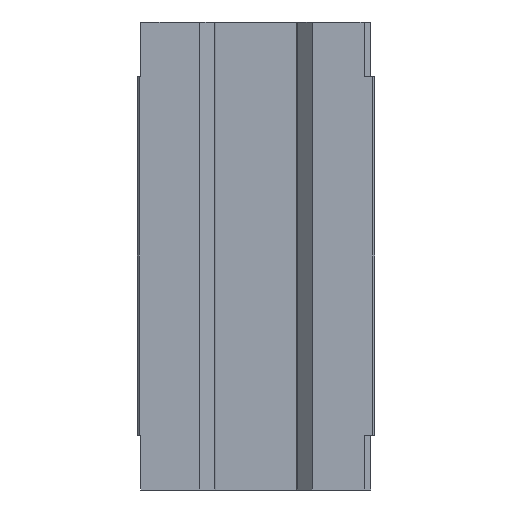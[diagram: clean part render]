
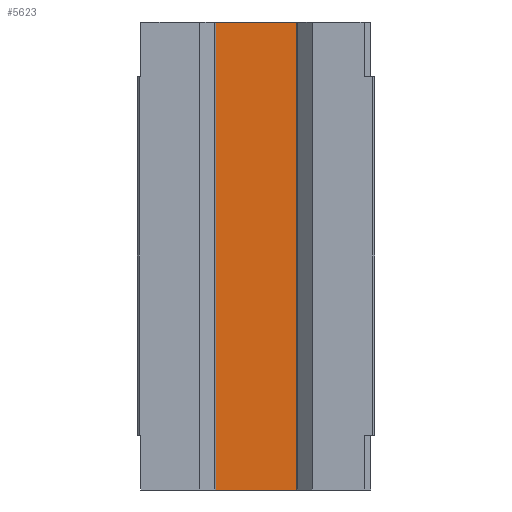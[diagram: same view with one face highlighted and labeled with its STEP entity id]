
A CAD part, front view. The second image highlights one B-rep face of the part: STEP entity #5623.
In plain terms, the highlighted planar face has unit normal (0, -1, 0).
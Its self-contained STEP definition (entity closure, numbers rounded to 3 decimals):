
#71 = VECTOR ( 'NONE', #1399, 1000. ) ;
#86 = LINE ( 'NONE', #6635, #71 ) ;
#167 = ORIENTED_EDGE ( 'NONE', *, *, #2098, .F. ) ;
#258 = CARTESIAN_POINT ( 'NONE',  ( 13.271, 0., 69.1 ) ) ;
#360 = DIRECTION ( 'NONE',  ( 0., 0., 1. ) ) ;
#1168 = CARTESIAN_POINT ( 'NONE',  ( 0., 0., 69.1 ) ) ;
#1209 = VERTEX_POINT ( 'NONE', #3286 ) ;
#1399 = DIRECTION ( 'NONE',  ( 0., 0., -1. ) ) ;
#1984 = VERTEX_POINT ( 'NONE', #9398 ) ;
#2098 = EDGE_CURVE ( 'NONE', #1209, #8563, #3503, .T. ) ;
#2306 = DIRECTION ( 'NONE',  ( 0., 0., 1. ) ) ;
#2330 = DIRECTION ( 'NONE',  ( 0., 1., 0. ) ) ;
#2358 = PLANE ( 'NONE',  #3755 ) ;
#2464 = CARTESIAN_POINT ( 'NONE',  ( -13.62, 0., 69.1 ) ) ;
#3029 = CARTESIAN_POINT ( 'NONE',  ( 13.271, 0., 69.1 ) ) ;
#3058 = DIRECTION ( 'NONE',  ( 1., 0., 0. ) ) ;
#3286 = CARTESIAN_POINT ( 'NONE',  ( -13.281, 0., 69.1 ) ) ;
#3300 = ORIENTED_EDGE ( 'NONE', *, *, #8544, .T. ) ;
#3410 = ORIENTED_EDGE ( 'NONE', *, *, #5689, .T. ) ;
#3491 = VECTOR ( 'NONE', #3058, 1000. ) ;
#3503 = LINE ( 'NONE', #1168, #3491 ) ;
#3755 = AXIS2_PLACEMENT_3D ( 'NONE', #2464, #2330, #2306 ) ;
#4043 = EDGE_CURVE ( 'NONE', #7639, #1984, #5765, .T. ) ;
#4737 = ORIENTED_EDGE ( 'NONE', *, *, #4043, .T. ) ;
#4764 = EDGE_LOOP ( 'NONE', ( #167, #3300, #4737, #3410 ) ) ;
#4978 = VECTOR ( 'NONE', #9555, 1000. ) ;
#5623 = ADVANCED_FACE ( 'NONE', ( #7305 ), #2358, .F. ) ;
#5689 = EDGE_CURVE ( 'NONE', #1984, #8563, #7086, .T. ) ;
#5765 = LINE ( 'NONE', #9579, #4978 ) ;
#6142 = CARTESIAN_POINT ( 'NONE',  ( -13.281, 0., -69.1 ) ) ;
#6635 = CARTESIAN_POINT ( 'NONE',  ( -13.281, 0., -69.1 ) ) ;
#7086 = LINE ( 'NONE', #258, #7179 ) ;
#7179 = VECTOR ( 'NONE', #360, 1000. ) ;
#7305 = FACE_OUTER_BOUND ( 'NONE', #4764, .T. ) ;
#7639 = VERTEX_POINT ( 'NONE', #6142 ) ;
#8544 = EDGE_CURVE ( 'NONE', #1209, #7639, #86, .T. ) ;
#8563 = VERTEX_POINT ( 'NONE', #3029 ) ;
#9398 = CARTESIAN_POINT ( 'NONE',  ( 13.271, 0., -69.1 ) ) ;
#9555 = DIRECTION ( 'NONE',  ( 1., 0., 0. ) ) ;
#9579 = CARTESIAN_POINT ( 'NONE',  ( -13.62, 0., -69.1 ) ) ;
